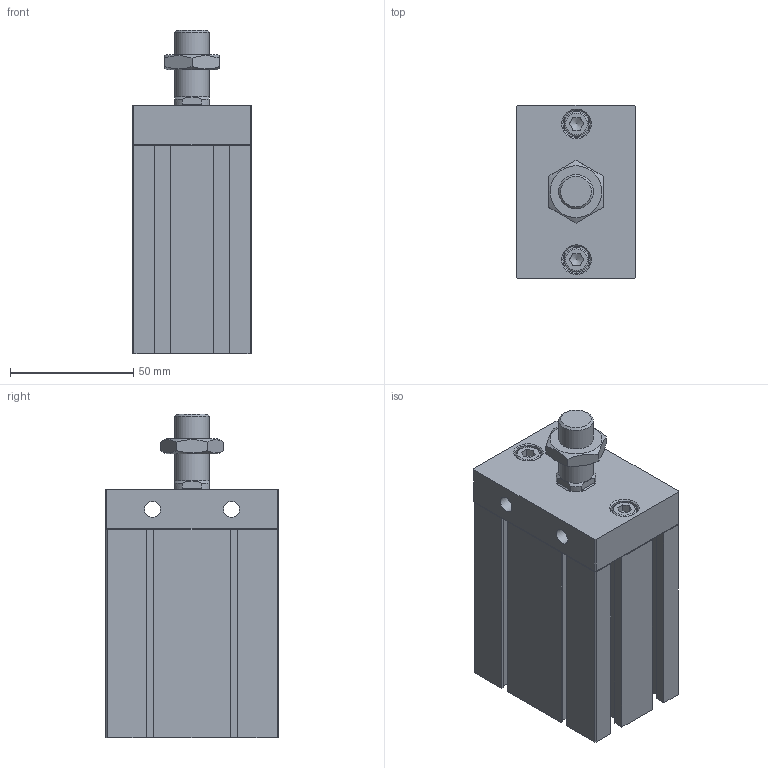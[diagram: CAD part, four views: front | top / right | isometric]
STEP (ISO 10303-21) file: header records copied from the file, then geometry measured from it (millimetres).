
FILE_DESCRIPTION((''),'2;1');
FILE_NAME('I:\3D電子目錄\氣缸\ND\ND\ND40-B\ND40x50-B.stp','2007-07-30T19:21:53',('Administrator'),(''),'Autodesk Inventor 11','Autodesk Inventor 11','');
FILE_SCHEMA(('AUTOMOTIVE_DESIGN { 1 0 10303 214 1 1 1 1 }'));
Length unit declared in the file: millimetre
Products named in the file (4): ND40-B; R 形環 42; ISO 4762 M6 x 20
Assembly tree (4 placements, depth 2):
  ND40-B
    ND40-B
    R 形環 42
    ISO 4762 M6 x 20  x2
Bounding box: 48 x 70.1 x 131 mm (x, y, z)
Volume: 308804.8 mm3; surface area: 51194.2 mm2
Topology: 5 solids, 5 shells, 207 faces, 501 edges, 321 vertices
Faces by surface type: plane 143, cylinder 27, cone 20, bspline 14, torus 3
Full cylindrical faces by diameter (mm): 1.9 x2, 2.2 x2, 6 x2, 6.5 x2, 10 x2, 11 x2, 14 x2, 29 x1, 42 x1, 44.5 x1
Entity records: 5567 total; most frequent: CARTESIAN_POINT 1155, DIRECTION 864, ORIENTED_EDGE 848, EDGE_CURVE 424, VECTOR 306, LINE 306, VERTEX_POINT 296, AXIS2_PLACEMENT_3D 279
